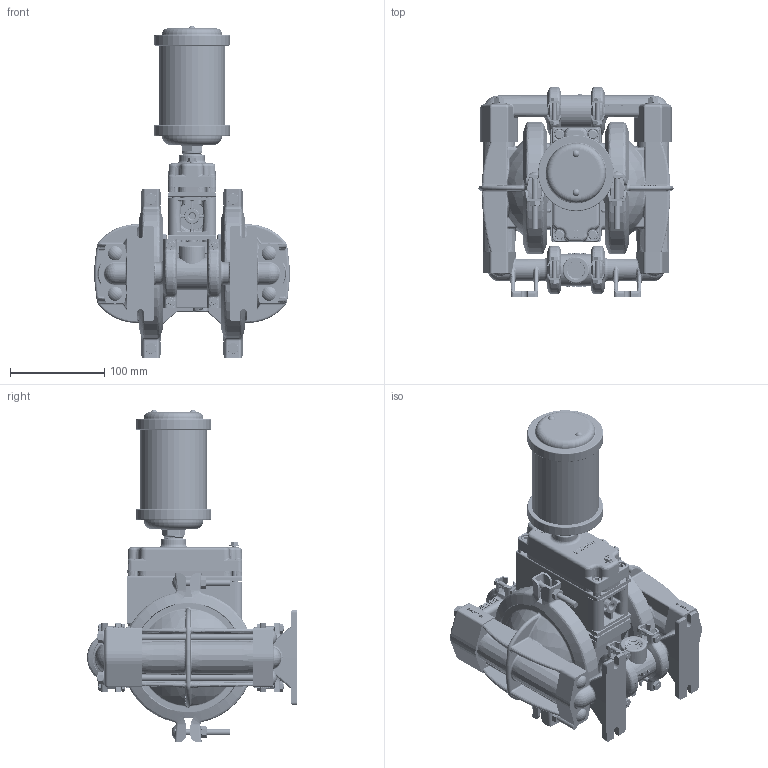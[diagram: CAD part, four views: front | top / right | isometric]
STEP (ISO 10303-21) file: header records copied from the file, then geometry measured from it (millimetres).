
FILE_DESCRIPTION (( 'STEP AP203' ), '1' );
FILE_NAME ('ps1_clamped_al_top.STEP', '2022-07-01T12:14:24', ( '' ), ( '' ), 'SwSTEP 2.0', 'SolidWorks 2019', '' );
FILE_SCHEMA (( 'CONFIG_CONTROL_DESIGN' ));
Length unit declared in the file: inch
Products named in the file (1): ps1_clamped_al_top
Bounding box: 207.26 x 223.01 x 352.55 mm (x, y, z)
Volume: 3015005.3 mm3; surface area: 461666.7 mm2
Topology: 1 solids, 1 shells, 9872 faces, 26175 edges, 16603 vertices
Faces by surface type: plane 6426, bspline 1482, cylinder 914, cone 557, torus 332, sphere 161
Entity records: 549444 total; most frequent: CARTESIAN_POINT 320206, ORIENTED_EDGE 52302, DIRECTION 40010, EDGE_CURVE 26151, LINE 16590, VERTEX_POINT 16590, VECTOR 16590, AXIS2_PLACEMENT_3D 11710
